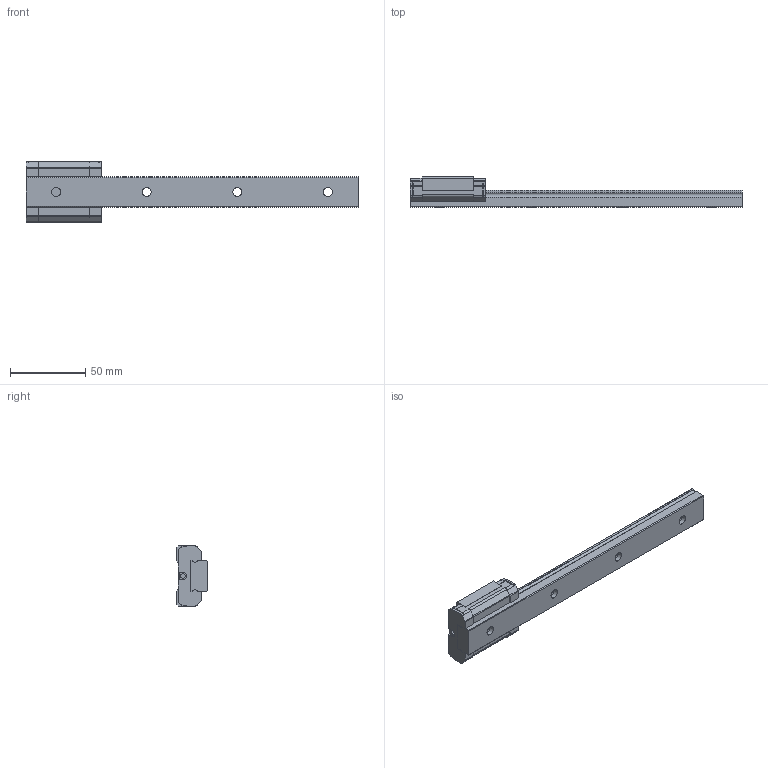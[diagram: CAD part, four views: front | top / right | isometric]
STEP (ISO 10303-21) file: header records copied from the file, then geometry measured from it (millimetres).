
FILE_DESCRIPTION(/* description */ ('STEP AP203'),/* implementation_level */ '2;1');
FILE_NAME(/* name */ 'SRS20MSS-220LM_G20_0_Without_grease_nipple_0_0_0_0_1',/* time_stamp */ '2024-05-17T09:13:29+02:00',/* author */ ('License CC BY-ND 4.0'),/* organization */ ('CADENAS'),/* preprocessor_version */ 'ST-DEVELOPER v19.3',/* originating_system */ 'PARTsolutions',/* authorisation */ ' ');
FILE_SCHEMA (('CONFIG_CONTROL_DESIGN'));
Length unit declared in the file: millimetre
Products named in the file (3): SRS20MSS-220LM_G20_0_Without_grease_nipple_0_0_0_0_1; SRS20M22020 Track; SRS20MSS1 Slider
Assembly tree (2 placements, depth 2):
  SRS20MSS-220LM_G20_0_Without_grease_nipple_0_0_0_0_1
    SRS20M22020 Track
    SRS20MSS1 Slider
Bounding box: 220 x 20 x 40 mm (x, y, z)
Volume: 67877.7 mm3; surface area: 22598.4 mm2
Topology: 2 solids, 2 shells, 202 faces, 556 edges, 364 vertices
Faces by surface type: plane 120, cylinder 74, cone 8
Full cylindrical faces by diameter (mm): 3 x2, 3.242 x4, 6 x4, 9.5 x4
Entity records: 6345 total; most frequent: DIRECTION 1096, CARTESIAN_POINT 1091, ORIENTED_EDGE 1052, EDGE_CURVE 526, LINE 366, VECTOR 366, AXIS2_PLACEMENT_3D 365, VERTEX_POINT 360
